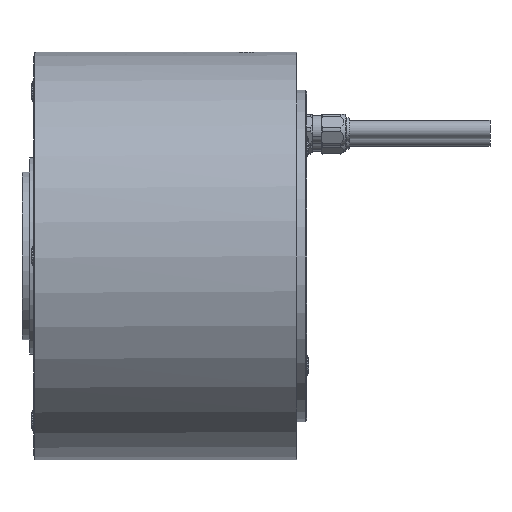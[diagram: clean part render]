
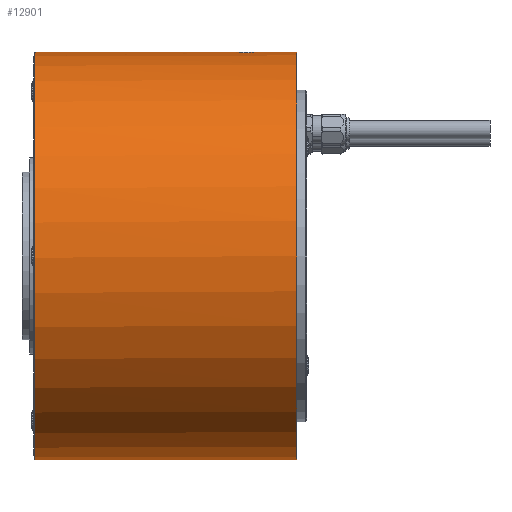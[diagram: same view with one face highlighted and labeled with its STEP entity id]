
A CAD part, left-side view. The second image highlights one B-rep face of the part: STEP entity #12901.
In plain terms, the highlighted cylindrical face has radius 72.5 mm (diameter 145 mm), a partial arc.
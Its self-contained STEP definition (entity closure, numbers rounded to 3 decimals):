
#141 = CARTESIAN_POINT ( 'NONE',  ( 0., -93.2, 0. ) ) ;
#302 = VERTEX_POINT ( 'NONE', #13726 ) ;
#408 = CARTESIAN_POINT ( 'NONE',  ( -1.508, -78.255, 72.485 ) ) ;
#866 = CARTESIAN_POINT ( 'NONE',  ( -1.096, -71.974, 72.492 ) ) ;
#1030 = ORIENTED_EDGE ( 'NONE', *, *, #3595, .T. ) ;
#1676 = DIRECTION ( 'NONE',  ( 0., 1., 0. ) ) ;
#1724 = CARTESIAN_POINT ( 'NONE',  ( -1.25, -0.2, 72.489 ) ) ;
#1736 = CARTESIAN_POINT ( 'NONE',  ( -2.705, -77.272, 72.45 ) ) ;
#1945 = EDGE_CURVE ( 'NONE', #14629, #8010, #6556, .T. ) ;
#1958 = ORIENTED_EDGE ( 'NONE', *, *, #1945, .F. ) ;
#2132 = B_SPLINE_CURVE_WITH_KNOTS ( 'NONE', 3,
 ( #6872, #17661, #10131, #19390, #866, #16238, #2400, #17870, #11449, #19282, #4020, #10235, #11355, #6665, #10036, #3719, #17564, #11549 ),
 .UNSPECIFIED., .F., .F.,
 ( 4, 2, 2, 2, 2, 2, 2, 2, 4 ),
 ( 0.011, 0.011, 0.012, 0.013, 0.013, 0.014, 0.015, 0.015, 0.016 ),
 .UNSPECIFIED. ) ;
#2145 = CARTESIAN_POINT ( 'NONE',  ( -3.378, -75.646, 72.421 ) ) ;
#2400 = CARTESIAN_POINT ( 'NONE',  ( -1.703, -72.249, 72.48 ) ) ;
#2609 = VERTEX_POINT ( 'NONE', #8184 ) ;
#2926 = CARTESIAN_POINT ( 'NONE',  ( 0., 0., -72.5 ) ) ;
#3005 = VECTOR ( 'NONE', #3297, 1000. ) ;
#3263 = CARTESIAN_POINT ( 'NONE',  ( 0., -93.2, -72.5 ) ) ;
#3297 = DIRECTION ( 'NONE',  ( 0., 1., 0. ) ) ;
#3369 = CARTESIAN_POINT ( 'NONE',  ( 0., -78.6, 72.5 ) ) ;
#3589 = FACE_OUTER_BOUND ( 'NONE', #19150, .T. ) ;
#3595 = EDGE_CURVE ( 'NONE', #6585, #302, #6360, .T. ) ;
#3719 = CARTESIAN_POINT ( 'NONE',  ( -3.378, -74.755, 72.421 ) ) ;
#4020 = CARTESIAN_POINT ( 'NONE',  ( -2.704, -73.127, 72.45 ) ) ;
#4130 = ORIENTED_EDGE ( 'NONE', *, *, #5610, .F. ) ;
#4229 = LINE ( 'NONE', #6050, #4813 ) ;
#4798 = CARTESIAN_POINT ( 'NONE',  ( -3.056, -76.707, 72.436 ) ) ;
#4813 = VECTOR ( 'NONE', #5751, 1000. ) ;
#4924 = LINE ( 'NONE', #10946, #3005 ) ;
#5095 = CARTESIAN_POINT ( 'NONE',  ( -3.4, -75.424, 72.42 ) ) ;
#5178 = CARTESIAN_POINT ( 'NONE',  ( -1.25, 0., 72.489 ) ) ;
#5610 = EDGE_CURVE ( 'NONE', #2609, #15802, #7204, .T. ) ;
#5751 = DIRECTION ( 'NONE',  ( 0., 1., 0. ) ) ;
#6050 = CARTESIAN_POINT ( 'NONE',  ( 0., -96.2, -72.5 ) ) ;
#6350 = DIRECTION ( 'NONE',  ( 0., 0., -1. ) ) ;
#6360 = LINE ( 'NONE', #14106, #16879 ) ;
#6556 = CIRCLE ( 'NONE', #14374, 72.5 ) ;
#6585 = VERTEX_POINT ( 'NONE', #9985 ) ;
#6665 = CARTESIAN_POINT ( 'NONE',  ( -3.226, -74.104, 72.428 ) ) ;
#6724 = CARTESIAN_POINT ( 'NONE',  ( -0.449, -78.6, 72.5 ) ) ;
#6872 = CARTESIAN_POINT ( 'NONE',  ( 0., -71.8, 72.5 ) ) ;
#6882 = ORIENTED_EDGE ( 'NONE', *, *, #11980, .T. ) ;
#6951 = CYLINDRICAL_SURFACE ( 'NONE', #15753, 72.5 ) ;
#7081 = ORIENTED_EDGE ( 'NONE', *, *, #19339, .F. ) ;
#7204 = B_SPLINE_CURVE_WITH_KNOTS ( 'NONE', 3,
 ( #16085, #5095, #2145, #11307, #12648, #4798, #17218, #1736, #11012, #19138, #15685, #12943, #408, #18730, #6724, #3369 ),
 .UNSPECIFIED., .F., .F.,
 ( 4, 2, 2, 2, 2, 2, 2, 4 ),
 ( 0.016, 0.017, 0.017, 0.018, 0.019, 0.019, 0.02, 0.021 ),
 .UNSPECIFIED. ) ;
#7300 = ORIENTED_EDGE ( 'NONE', *, *, #16120, .T. ) ;
#7919 = DIRECTION ( 'NONE',  ( 0., 0., 1. ) ) ;
#8010 = VERTEX_POINT ( 'NONE', #5178 ) ;
#8184 = CARTESIAN_POINT ( 'NONE',  ( -3.4, -75.2, 72.42 ) ) ;
#8567 = CIRCLE ( 'NONE', #17025, 72.5 ) ;
#8981 = CARTESIAN_POINT ( 'NONE',  ( -1.25, -0.2, 72.489 ) ) ;
#9939 = CARTESIAN_POINT ( 'NONE',  ( 0., -78.6, 72.5 ) ) ;
#9985 = CARTESIAN_POINT ( 'NONE',  ( 0., -71.8, 72.5 ) ) ;
#10036 = CARTESIAN_POINT ( 'NONE',  ( -3.292, -74.32, 72.425 ) ) ;
#10108 = DIRECTION ( 'NONE',  ( 0., 0., 1. ) ) ;
#10131 = CARTESIAN_POINT ( 'NONE',  ( -0.443, -71.822, 72.499 ) ) ;
#10235 = CARTESIAN_POINT ( 'NONE',  ( -2.951, -73.497, 72.44 ) ) ;
#10468 = VERTEX_POINT ( 'NONE', #1724 ) ;
#10946 = CARTESIAN_POINT ( 'NONE',  ( 0., -96.2, 72.5 ) ) ;
#10997 = CIRCLE ( 'NONE', #16845, 72.5 ) ;
#11012 = CARTESIAN_POINT ( 'NONE',  ( -2.562, -77.447, 72.455 ) ) ;
#11307 = CARTESIAN_POINT ( 'NONE',  ( -3.292, -76.08, 72.425 ) ) ;
#11355 = CARTESIAN_POINT ( 'NONE',  ( -3.055, -73.692, 72.436 ) ) ;
#11449 = CARTESIAN_POINT ( 'NONE',  ( -2.247, -72.638, 72.465 ) ) ;
#11549 = CARTESIAN_POINT ( 'NONE',  ( -3.4, -75.2, 72.42 ) ) ;
#11980 = EDGE_CURVE ( 'NONE', #10468, #8010, #13567, .T. ) ;
#12032 = VERTEX_POINT ( 'NONE', #3263 ) ;
#12281 = CARTESIAN_POINT ( 'NONE',  ( 0., 0., 0. ) ) ;
#12538 = EDGE_CURVE ( 'NONE', #6585, #2609, #2132, .T. ) ;
#12648 = CARTESIAN_POINT ( 'NONE',  ( -3.226, -76.295, 72.428 ) ) ;
#12815 = DIRECTION ( 'NONE',  ( 0., 1., 0. ) ) ;
#12901 = ADVANCED_FACE ( 'NONE', ( #3589 ), #6951, .T. ) ;
#12943 = CARTESIAN_POINT ( 'NONE',  ( -1.706, -78.149, 72.48 ) ) ;
#13062 = VERTEX_POINT ( 'NONE', #13667 ) ;
#13567 = LINE ( 'NONE', #8981, #17342 ) ;
#13667 = CARTESIAN_POINT ( 'NONE',  ( 0., -93.2, 72.5 ) ) ;
#13726 = CARTESIAN_POINT ( 'NONE',  ( 0., -0.2, 72.5 ) ) ;
#14106 = CARTESIAN_POINT ( 'NONE',  ( 0., -96.2, 72.5 ) ) ;
#14339 = CARTESIAN_POINT ( 'NONE',  ( 0., -0.2, 0. ) ) ;
#14374 = AXIS2_PLACEMENT_3D ( 'NONE', #12281, #1676, #20098 ) ;
#14484 = ORIENTED_EDGE ( 'NONE', *, *, #19462, .F. ) ;
#14629 = VERTEX_POINT ( 'NONE', #2926 ) ;
#15149 = ORIENTED_EDGE ( 'NONE', *, *, #12538, .F. ) ;
#15685 = CARTESIAN_POINT ( 'NONE',  ( -2.077, -77.901, 72.47 ) ) ;
#15753 = AXIS2_PLACEMENT_3D ( 'NONE', #16311, #16009, #10108 ) ;
#15802 = VERTEX_POINT ( 'NONE', #9939 ) ;
#16009 = DIRECTION ( 'NONE',  ( 0., 1., 0. ) ) ;
#16085 = CARTESIAN_POINT ( 'NONE',  ( -3.4, -75.2, 72.42 ) ) ;
#16120 = EDGE_CURVE ( 'NONE', #13062, #15802, #4924, .T. ) ;
#16191 = ORIENTED_EDGE ( 'NONE', *, *, #17401, .F. ) ;
#16238 = CARTESIAN_POINT ( 'NONE',  ( -1.505, -72.143, 72.485 ) ) ;
#16311 = CARTESIAN_POINT ( 'NONE',  ( 0., -96.2, 0. ) ) ;
#16845 = AXIS2_PLACEMENT_3D ( 'NONE', #141, #17246, #6350 ) ;
#16879 = VECTOR ( 'NONE', #18582, 1000. ) ;
#17025 = AXIS2_PLACEMENT_3D ( 'NONE', #14339, #12815, #7919 ) ;
#17218 = CARTESIAN_POINT ( 'NONE',  ( -2.951, -76.902, 72.44 ) ) ;
#17246 = DIRECTION ( 'NONE',  ( 0., -1., 0. ) ) ;
#17342 = VECTOR ( 'NONE', #19763, 1000. ) ;
#17401 = EDGE_CURVE ( 'NONE', #10468, #302, #8567, .T. ) ;
#17564 = CARTESIAN_POINT ( 'NONE',  ( -3.4, -74.976, 72.42 ) ) ;
#17661 = CARTESIAN_POINT ( 'NONE',  ( -0.222, -71.8, 72.5 ) ) ;
#17870 = CARTESIAN_POINT ( 'NONE',  ( -2.075, -72.498, 72.471 ) ) ;
#18582 = DIRECTION ( 'NONE',  ( 0., 1., 0. ) ) ;
#18730 = CARTESIAN_POINT ( 'NONE',  ( -0.895, -78.51, 72.496 ) ) ;
#19138 = CARTESIAN_POINT ( 'NONE',  ( -2.248, -77.76, 72.465 ) ) ;
#19150 = EDGE_LOOP ( 'NONE', ( #7081, #14484, #7300, #4130, #15149, #1030, #16191, #6882, #1958 ) ) ;
#19282 = CARTESIAN_POINT ( 'NONE',  ( -2.56, -72.952, 72.455 ) ) ;
#19339 = EDGE_CURVE ( 'NONE', #12032, #14629, #4229, .T. ) ;
#19390 = CARTESIAN_POINT ( 'NONE',  ( -0.881, -71.909, 72.495 ) ) ;
#19462 = EDGE_CURVE ( 'NONE', #13062, #12032, #10997, .T. ) ;
#19763 = DIRECTION ( 'NONE',  ( 0., 1., 0. ) ) ;
#20098 = DIRECTION ( 'NONE',  ( 0., 0., 1. ) ) ;
